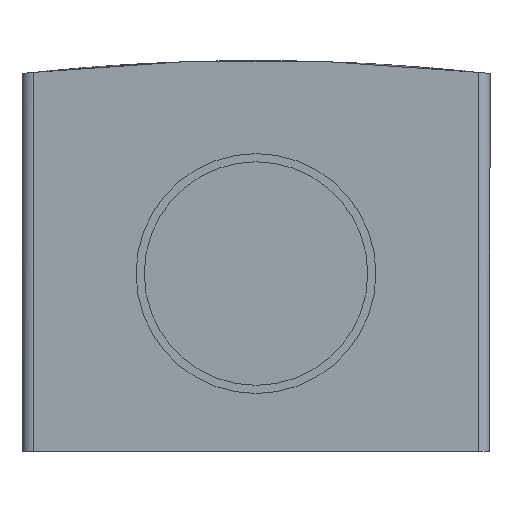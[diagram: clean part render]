
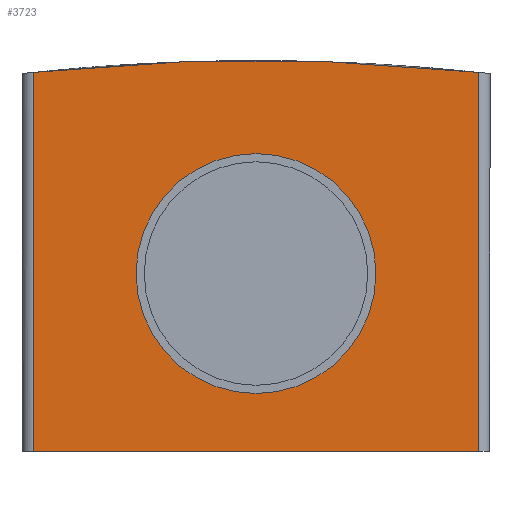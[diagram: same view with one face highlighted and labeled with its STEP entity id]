
A CAD part, front view. The second image highlights one B-rep face of the part: STEP entity #3723.
In plain terms, the highlighted planar face has unit normal (0, -1, 0).
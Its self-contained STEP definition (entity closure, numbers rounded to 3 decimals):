
#56 = EDGE_CURVE ( 'NONE', #16470, #5925, #15267, .T. ) ;
#877 = EDGE_CURVE ( 'NONE', #2366, #14900, #17126, .T. ) ;
#983 = ORIENTED_EDGE ( 'NONE', *, *, #877, .F. ) ;
#1306 = CARTESIAN_POINT ( 'NONE',  ( 0., -45.5, 11.2 ) ) ;
#1739 = CARTESIAN_POINT ( 'NONE',  ( 19., -45.5, 18.144 ) ) ;
#2039 = CARTESIAN_POINT ( 'NONE',  ( 0., -45.5, 0.95 ) ) ;
#2365 = DIRECTION ( 'NONE',  ( 0., -1., 0. ) ) ;
#2366 = VERTEX_POINT ( 'NONE', #10167 ) ;
#2545 = PLANE ( 'NONE',  #11067 ) ;
#2947 = CARTESIAN_POINT ( 'NONE',  ( 19., -45.5, -14.25 ) ) ;
#3029 = AXIS2_PLACEMENT_3D ( 'NONE', #14311, #6349, #15653 ) ;
#3247 = CIRCLE ( 'NONE', #13251, 180. ) ;
#3371 = DIRECTION ( 'NONE',  ( 0., 0., -1. ) ) ;
#3648 = EDGE_CURVE ( 'NONE', #16833, #17167, #9897, .T. ) ;
#3723 = ADVANCED_FACE ( 'NONE', ( #6303, #9860 ), #2545, .T. ) ;
#3795 = VECTOR ( 'NONE', #6919, 1000. ) ;
#3922 = ORIENTED_EDGE ( 'NONE', *, *, #14972, .T. ) ;
#4161 = ORIENTED_EDGE ( 'NONE', *, *, #56, .T. ) ;
#4297 = DIRECTION ( 'NONE',  ( 0., 0., 1. ) ) ;
#4306 = CIRCLE ( 'NONE', #9149, 10.25 ) ;
#4594 = CARTESIAN_POINT ( 'NONE',  ( -19., -45.5, 18.144 ) ) ;
#4797 = ORIENTED_EDGE ( 'NONE', *, *, #14476, .F. ) ;
#5225 = DIRECTION ( 'NONE',  ( 1., 0., 0. ) ) ;
#5925 = VERTEX_POINT ( 'NONE', #1739 ) ;
#6303 = FACE_OUTER_BOUND ( 'NONE', #15430, .T. ) ;
#6349 = DIRECTION ( 'NONE',  ( 0., -1., 0. ) ) ;
#6919 = DIRECTION ( 'NONE',  ( 0., 0., 1. ) ) ;
#7780 = VECTOR ( 'NONE', #4297, 1000. ) ;
#7857 = VECTOR ( 'NONE', #10110, 1000. ) ;
#7867 = CARTESIAN_POINT ( 'NONE',  ( 19., -45.5, -14.25 ) ) ;
#8199 = EDGE_CURVE ( 'NONE', #2366, #16470, #14927, .T. ) ;
#9149 = AXIS2_PLACEMENT_3D ( 'NONE', #2039, #11357, #3371 ) ;
#9860 = FACE_BOUND ( 'NONE', #11951, .T. ) ;
#9897 = CIRCLE ( 'NONE', #3029, 10.25 ) ;
#10110 = DIRECTION ( 'NONE',  ( 1., 0., 0. ) ) ;
#10167 = CARTESIAN_POINT ( 'NONE',  ( -19., -45.5, -14.25 ) ) ;
#10349 = CARTESIAN_POINT ( 'NONE',  ( 0., -45.5, -160.85 ) ) ;
#10844 = ORIENTED_EDGE ( 'NONE', *, *, #3648, .F. ) ;
#11067 = AXIS2_PLACEMENT_3D ( 'NONE', #7867, #13187, #5225 ) ;
#11357 = DIRECTION ( 'NONE',  ( 0., -1., 0. ) ) ;
#11362 = ORIENTED_EDGE ( 'NONE', *, *, #8199, .T. ) ;
#11684 = DIRECTION ( 'NONE',  ( 1., 0., 0. ) ) ;
#11921 = CARTESIAN_POINT ( 'NONE',  ( 0., -45.5, -9.3 ) ) ;
#11951 = EDGE_LOOP ( 'NONE', ( #4797, #10844 ) ) ;
#13187 = DIRECTION ( 'NONE',  ( 0., -1., 0. ) ) ;
#13251 = AXIS2_PLACEMENT_3D ( 'NONE', #10349, #2365, #11684 ) ;
#14311 = CARTESIAN_POINT ( 'NONE',  ( 0., -45.5, 0.95 ) ) ;
#14476 = EDGE_CURVE ( 'NONE', #17167, #16833, #4306, .T. ) ;
#14882 = CARTESIAN_POINT ( 'NONE',  ( 19., -45.5, -14.25 ) ) ;
#14894 = CARTESIAN_POINT ( 'NONE',  ( -19., -45.5, -14.25 ) ) ;
#14900 = VERTEX_POINT ( 'NONE', #4594 ) ;
#14927 = LINE ( 'NONE', #16726, #7857 ) ;
#14972 = EDGE_CURVE ( 'NONE', #5925, #14900, #3247, .T. ) ;
#15267 = LINE ( 'NONE', #2947, #7780 ) ;
#15430 = EDGE_LOOP ( 'NONE', ( #3922, #983, #11362, #4161 ) ) ;
#15653 = DIRECTION ( 'NONE',  ( 0., 0., -1. ) ) ;
#16470 = VERTEX_POINT ( 'NONE', #14882 ) ;
#16726 = CARTESIAN_POINT ( 'NONE',  ( 19., -45.5, -14.25 ) ) ;
#16833 = VERTEX_POINT ( 'NONE', #1306 ) ;
#17126 = LINE ( 'NONE', #14894, #3795 ) ;
#17167 = VERTEX_POINT ( 'NONE', #11921 ) ;
